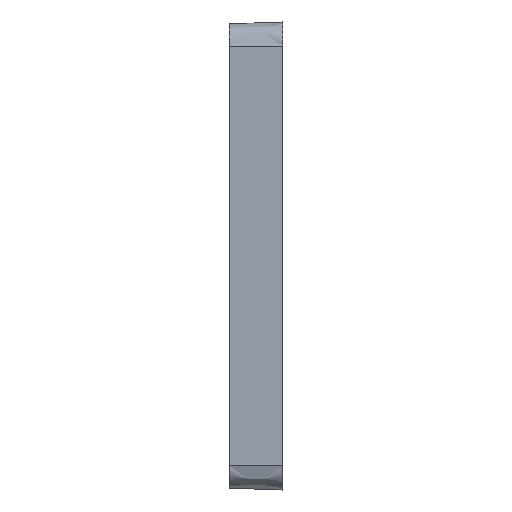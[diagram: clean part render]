
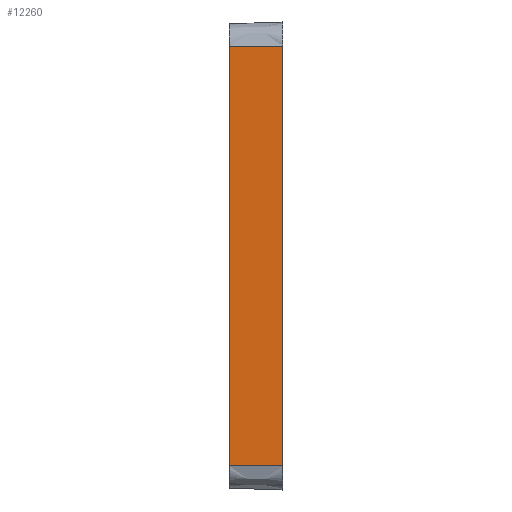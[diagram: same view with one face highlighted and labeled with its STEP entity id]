
A CAD part, left-side view. The second image highlights one B-rep face of the part: STEP entity #12260.
In plain terms, the highlighted planar face has unit normal (-0.999, 0.035, 0).
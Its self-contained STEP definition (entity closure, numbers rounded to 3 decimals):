
#10447 = DIRECTION ( 'NONE',  ( -0.035, -0.999, 0. ) ) ;
#10448 = VECTOR ( 'NONE', #10447, 39.37 ) ;
#10449 = CARTESIAN_POINT ( 'NONE',  ( -11.155, 0., -7.773 ) ) ;
#10450 = LINE ( 'NONE', #10449, #10448 ) ;
#10588 = DIRECTION ( 'NONE',  ( 0., 0., -1. ) ) ;
#10687 = CARTESIAN_POINT ( 'NONE',  ( -11.085, 2., 7.773 ) ) ;
#10688 = DIRECTION ( 'NONE',  ( 0., 0., -1. ) ) ;
#10689 = VECTOR ( 'NONE', #10688, 39.37 ) ;
#10690 = CARTESIAN_POINT ( 'NONE',  ( -11.085, 2., 7.773 ) ) ;
#10691 = LINE ( 'NONE', #10690, #10689 ) ;
#10692 = CARTESIAN_POINT ( 'NONE',  ( -11.085, 2., -7.773 ) ) ;
#10719 = VECTOR ( 'NONE', #10588, 39.37 ) ;
#10720 = CARTESIAN_POINT ( 'NONE',  ( -11.155, 0., 7.773 ) ) ;
#10721 = LINE ( 'NONE', #10720, #10719 ) ;
#10722 = CARTESIAN_POINT ( 'NONE',  ( -11.155, 0., 7.773 ) ) ;
#10723 = CARTESIAN_POINT ( 'NONE',  ( -11.155, 0., -7.773 ) ) ;
#10872 = DIRECTION ( 'NONE',  ( -0.035, -0.999, 0. ) ) ;
#10873 = DIRECTION ( 'NONE',  ( -0.999, 0.035, 0. ) ) ;
#10874 = CARTESIAN_POINT ( 'NONE',  ( -11.155, 0., 7.773 ) ) ;
#10875 = AXIS2_PLACEMENT_3D ( 'NONE', #10874, #10873, #10872 ) ;
#10876 = PLANE ( 'NONE',  #10875 ) ;
#10877 = FACE_OUTER_BOUND ( 'NONE', #12257, .T. ) ;
#10878 = DIRECTION ( 'NONE',  ( -0.035, -0.999, 0. ) ) ;
#10879 = VECTOR ( 'NONE', #10878, 39.37 ) ;
#10880 = CARTESIAN_POINT ( 'NONE',  ( -11.155, 0., 7.773 ) ) ;
#10885 = LINE ( 'NONE', #10880, #10879 ) ;
#12152 = ORIENTED_EDGE ( 'NONE', *, *, #12175, .T. ) ;
#12153 = ORIENTED_EDGE ( 'NONE', *, *, #12193, .F. ) ;
#12175 = EDGE_CURVE ( 'NONE', #12215, #12189, #10450, .T. ) ;
#12189 = VERTEX_POINT ( 'NONE', #10723 ) ;
#12191 = VERTEX_POINT ( 'NONE', #10722 ) ;
#12193 = EDGE_CURVE ( 'NONE', #12191, #12189, #10721, .T. ) ;
#12215 = VERTEX_POINT ( 'NONE', #10692 ) ;
#12217 = EDGE_CURVE ( 'NONE', #12218, #12215, #10691, .T. ) ;
#12218 = VERTEX_POINT ( 'NONE', #10687 ) ;
#12255 = ORIENTED_EDGE ( 'NONE', *, *, #12217, .T. ) ;
#12257 = EDGE_LOOP ( 'NONE', ( #12258, #12255, #12152, #12153 ) ) ;
#12258 = ORIENTED_EDGE ( 'NONE', *, *, #12259, .F. ) ;
#12259 = EDGE_CURVE ( 'NONE', #12218, #12191, #10885, .T. ) ;
#12260 = ADVANCED_FACE ( 'NONE', ( #10877 ), #10876, .T. ) ;
